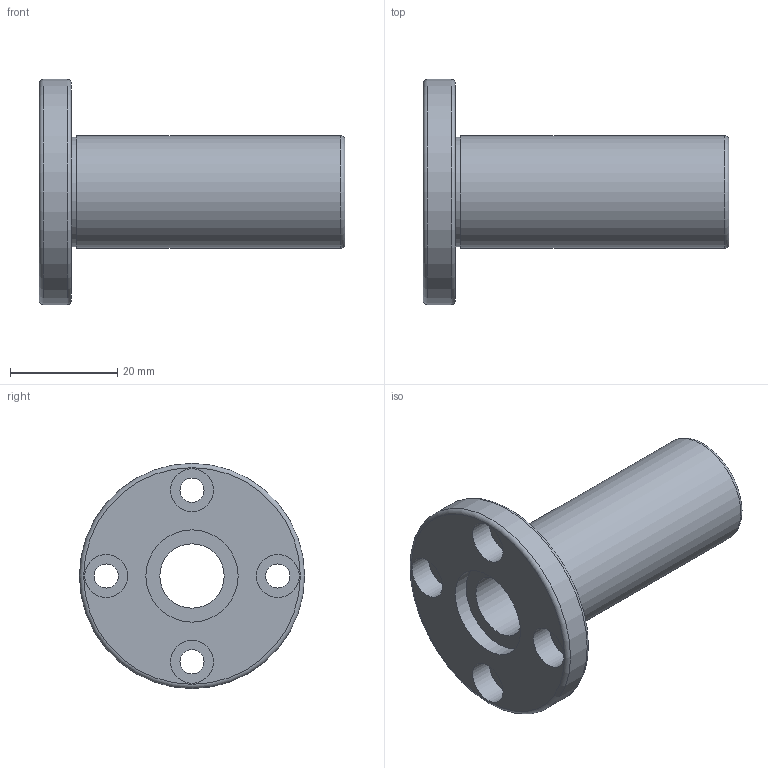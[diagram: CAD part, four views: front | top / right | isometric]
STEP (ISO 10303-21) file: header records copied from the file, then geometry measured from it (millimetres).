
FILE_DESCRIPTION( ( 'Unknown' ), '1' );
FILE_NAME( 'D:/累诀/己绕皋墨飘肺葱胶/11-04-06_档搁累己/01_府聪绢何教/LMF L/LMF 12L.stp', 'Unknown', ( 'Unknown' ), ( 'Unknown' ), 'PSStep 11.0', 'Unknown', ' ' );
FILE_SCHEMA( ( 'AUTOMOTIVE_DESIGN { 1 0 10303 214 1 1 1 1 }' ) );
Length unit declared in the file: millimetre
Products named in the file (1): 1
Bounding box: 57 x 42 x 42 mm (x, y, z)
Volume: 17799.9 mm3; surface area: 9271.6 mm2
Topology: 1 solids, 1 shells, 27 faces, 51 edges, 34 vertices
Faces by surface type: cylinder 14, plane 10, torus 3
Full cylindrical faces by diameter (mm): 4.5 x4, 8 x4, 12 x1, 17.2 x2, 20.4 x1, 21 x1, 42 x1
Entity records: 836 total; most frequent: DIRECTION 118, CARTESIAN_POINT 90, EDGE_LOOP 62, ORIENTED_EDGE 62, AXIS2_PLACEMENT_3D 59, FACE_OUTER_BOUND 44, EDGE_CURVE 31, VERTEX_POINT 31
